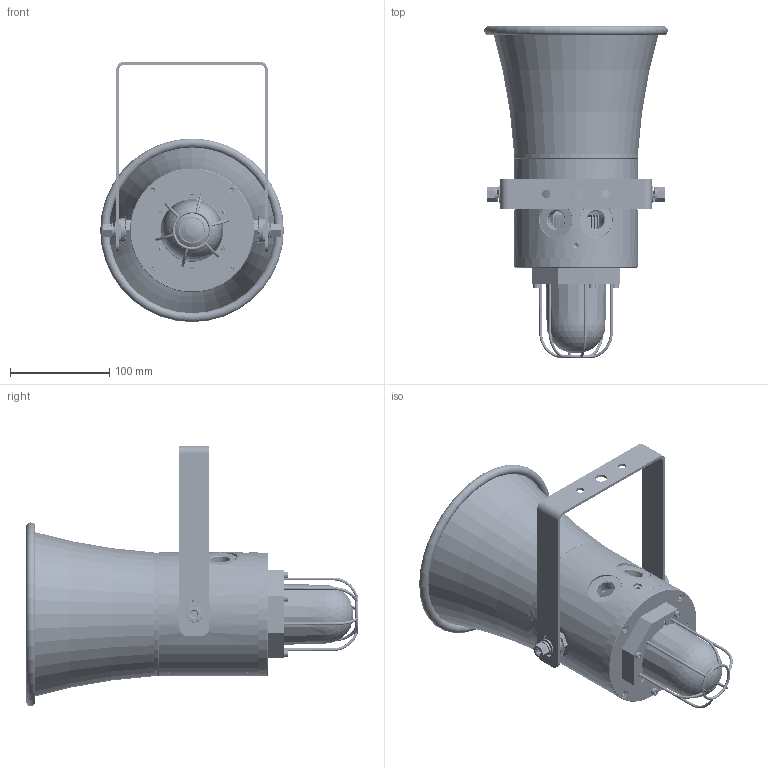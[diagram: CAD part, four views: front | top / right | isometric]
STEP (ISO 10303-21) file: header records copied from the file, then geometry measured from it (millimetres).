
FILE_DESCRIPTION((''),'2;1');
FILE_NAME('0-SB125-SOUNDER_ASM','2015-12-21T',('Administrator'),(''),'PRO/ENGINEER BY PARAMETRIC TECHNOLOGY CORPORATION, 2008090','PRO/ENGINEER BY PARAMETRIC TECHNOLOGY CORPORATION, 2008090','');
FILE_SCHEMA(('CONFIG_CONTROL_DESIGN'));
Length unit declared in the file: millimetre
Products named in the file (45): 55050110101; 55050110103; 50050110106; 50050180237; 55050110105; 55050110104; 50050110202; 50050110201; 50050110203; GTS5; 51860510020; 50050110204; SPWF8; SSLW8; 51860410008; SANN8-1; 55050140504; 50050150505; CG; HS; 50050150506; MQ; 50050150501; 55050110107; 55050100620_ASM; 55060110106; 55060170107; 50060111202; 50060110108; 50060111201; 50060110138; 51860510016; 50060110109; M4-10; 50060120606; TEMINAL-4; NEW-SOUNDER-PCB-PLAT; SWITCH-A; SWITCH-B; SWITCH-C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
Assembly tree (71 placements, depth 4):
  0-SB125-SOUNDER_ASM
    55050110101
    55050110103
    50050110106
    50050180237
    55050110105
    55050110104
    50050110202  x2
    50050110201  x2
    50050110203
    GTS5  x7
    51860510020  x4
    50050110204  x2
    SPWF8  x2
    SSLW8  x2
    51860410008  x3
    SANN8-1  x2
    55050100620_ASM
      55050140504
      50050150505
      CG
      HS
      50050150506
      MQ
      50050150501
      55050110107
    BC125UPPER_ASM
      55060110106
      55060170107
      50060111202
      50060110108
      50060111201
      50050180237
      50060110138
      51860510016  x4
      50060110109
      M4-10  x4
      NEW-SOUNDER-PCB_ASM
        50060120606
        TEMINAL-4
        NEW-SOUNDER-PCB-PLAT
        SWITCH-A
        SWITCH-B
        SWITCH-C
        SWITCH-D  x4
    50050110230
Bounding box: 185.36 x 334.98 x 262.68 mm (x, y, z)
Volume: 1187724.4 mm3; surface area: 704644.8 mm2
Topology: 68 solids, 135 shells, 6351 faces, 16936 edges, 10992 vertices
Faces by surface type: plane 3921, cylinder 1106, cone 443, torus 419, bspline 299, sphere 163
Entity records: 200407 total; most frequent: CARTESIAN_POINT 62531, ORIENTED_EDGE 29594, DIRECTION 26626, EDGE_CURVE 14925, VERTEX_POINT 9756, VECTOR 9578, LINE 9578, AXIS2_PLACEMENT_3D 8524
